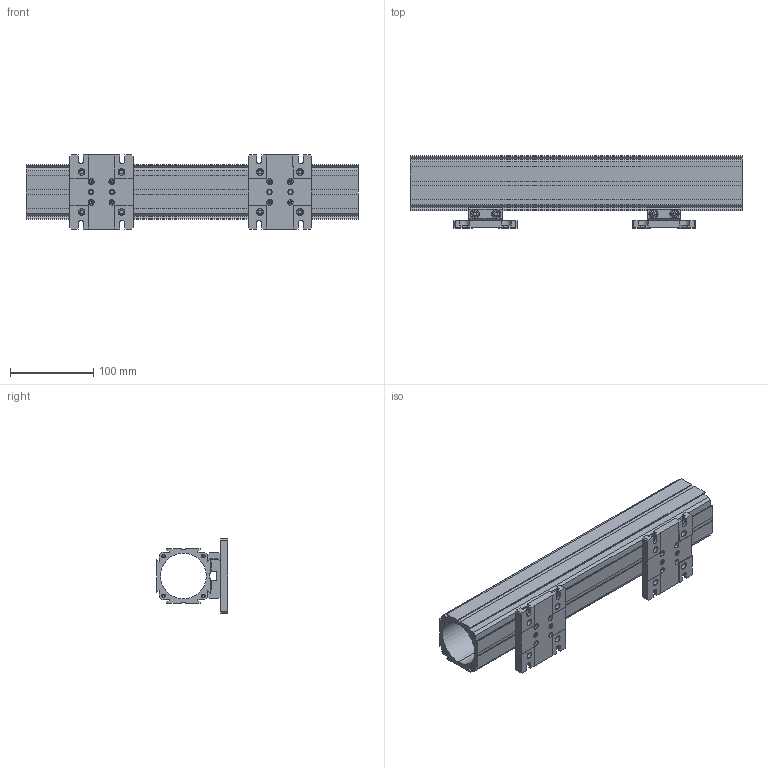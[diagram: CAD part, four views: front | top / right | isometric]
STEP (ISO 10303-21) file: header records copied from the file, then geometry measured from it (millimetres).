
FILE_DESCRIPTION((''),'2;1');
FILE_NAME('OPH-B400_ASM','2021-06-24T',('Administrator'),(''),'CREO PARAMETRIC BY PTC INC, 2015290','CREO PARAMETRIC BY PTC INC, 2015290','');
FILE_SCHEMA(('CONFIG_CONTROL_DESIGN'));
Products named in the file (8): M4X12_HP; WASHER_M4; OOP-MA_A1; OOP-MA_A2; OOP-MA_ASM; OPS-ML; OPH_A400; OPH-B400_ASM
Assembly tree (11 placements, depth 3):
  OPH-B400_ASM
    OOP-MA_ASM  x2
      M4X12_HP
      WASHER_M4
      OOP-MA_A1
      OOP-MA_A2
    OPS-ML  x2
    OPH_A400
Bounding box: 400 x 86.73 x 89.28 mm (x, y, z)
Volume: 767763.6 mm3; surface area: 248619.3 mm2
Topology: 15 solids, 15 shells, 1262 faces, 3620 edges, 2312 vertices
Faces by surface type: cylinder 476, plane 322, bspline 312, cone 132, extrusion 12, sphere 8
Entity records: 52683 total; most frequent: CARTESIAN_POINT 34572, ORIENTED_EDGE 4340, DIRECTION 2766, EDGE_CURVE 2170, VERTEX_POINT 1403, VECTOR 1052, LINE 1049, AXIS2_PLACEMENT_3D 857
